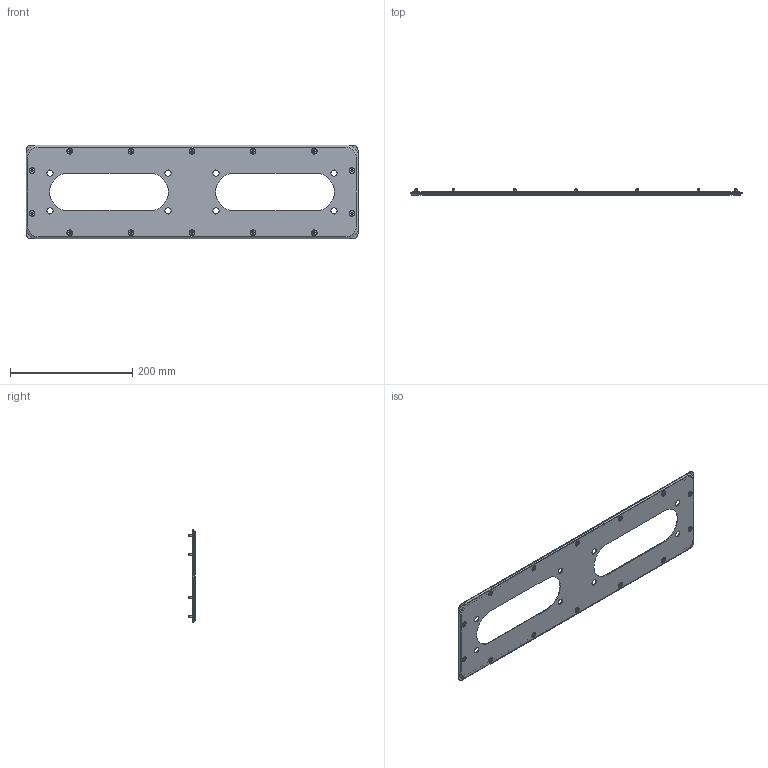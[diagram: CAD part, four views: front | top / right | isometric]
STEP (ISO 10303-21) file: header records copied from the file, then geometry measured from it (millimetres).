
FILE_DESCRIPTION (( 'STEP AP203' ), '1' );
FILE_NAME ('R5FPST03.STEP', '2024-03-22T08:42:01', ( '' ), ( '' ), 'SwSTEP 2.0', 'SolidWorks 2022', '' );
FILE_SCHEMA (( 'CONFIG_CONTROL_DESIGN' ));
Length unit declared in the file: millimetre
Products named in the file (5): R5FPST03; RB.0185.00.01.0_-02; M4x10 DIN 7500 M PZ cl.4,8 Zinc_straight; PF 4x8 flange ST_04; RB.0185.00.00.0 СБ_-02
Assembly tree (17 placements, depth 3):
  R5FPST03
    RB.0185.00.00.0 СБ_-02
      RB.0185.00.01.0_-02
      PF 4x8 flange ST_04
    M4x10 DIN 7500 M PZ cl.4,8 Zinc_straight  x14
Bounding box: 543 x 10 x 153 mm (x, y, z)
Volume: 112154.6 mm3; surface area: 152765.5 mm2
Topology: 16 solids, 16 shells, 696 faces, 1645 edges, 981 vertices
Faces by surface type: plane 300, cone 200, cylinder 96, torus 96, bspline 4
Entity records: 8984 total; most frequent: CARTESIAN_POINT 1834, DIRECTION 1491, ORIENTED_EDGE 1206, AXIS2_PLACEMENT_3D 635, EDGE_CURVE 603, VERTEX_POINT 370, CIRCLE 364, EDGE_LOOP 319
